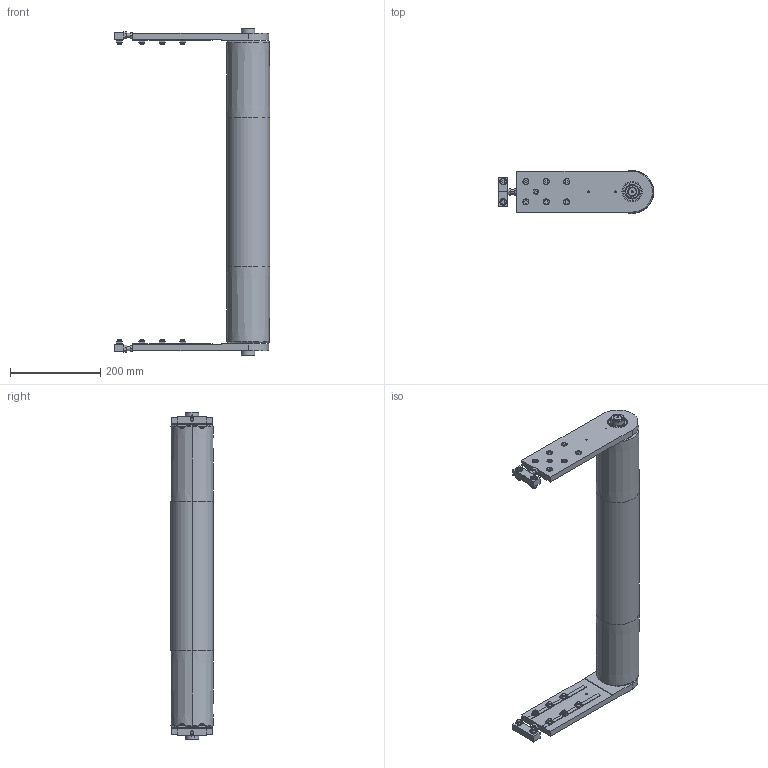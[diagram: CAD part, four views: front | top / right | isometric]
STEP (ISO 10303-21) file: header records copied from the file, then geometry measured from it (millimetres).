
FILE_DESCRIPTION (( 'STEP AP203' ), '1' );
FILE_NAME ('084.095.KI.640.STEP', '2019-10-29T11:07:05', ( 'Localadmin' ), ( 'Microsoft' ), 'SwSTEP 2.0', 'SolidWorks 2018', '' );
FILE_SCHEMA (( 'CONFIG_CONTROL_DESIGN' ));
Length unit declared in the file: millimetre
Products named in the file (10): 084.802.019_084.802.019; 084.803.003; Circlip DIN 471 - 30 x 1.5_Circlip DIN 471 - 30 x 1.5; 084.301.000 VITI ALUSIC_084.301.003; 084.095.KI.640; 084.302.000 DADI ALUSIC 13x13_084.302.004; 084.816.183_084.816.110<A macchina>; 084.812.003; 084.808.002_084.808.002; 084.810.003
Assembly tree (45 placements, depth 2):
  084.095.KI.640
    084.301.000 VITI ALUSIC_084.301.003  x16
    084.302.000 DADI ALUSIC 13x13_084.302.004  x16
    084.816.183_084.816.110<A macchina>
    084.812.003  x2
    084.808.002_084.808.002  x2
    084.810.003  x2
    084.802.019_084.802.019  x2
    084.803.003  x2
    Circlip DIN 471 - 30 x 1.5_Circlip DIN 471 - 30 x 1.5  x2
Bounding box: 343.5 x 95 x 725 mm (x, y, z)
Volume: 2133679.5 mm3; surface area: 905959.9 mm2
Topology: 51 solids, 53 shells, 1154 faces, 2840 edges, 1848 vertices
Faces by surface type: plane 563, cylinder 351, torus 108, cone 76, bspline 48, sphere 8
Entity records: 14502 total; most frequent: CARTESIAN_POINT 2620, DIRECTION 2186, ORIENTED_EDGE 1976, EDGE_CURVE 988, AXIS2_PLACEMENT_3D 857, VERTEX_POINT 647, LINE 472, VECTOR 472
